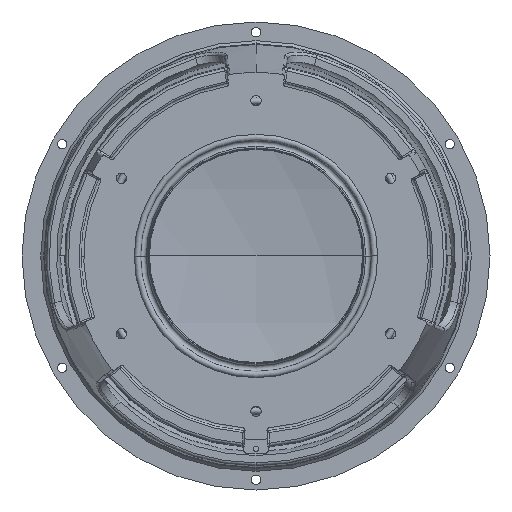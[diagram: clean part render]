
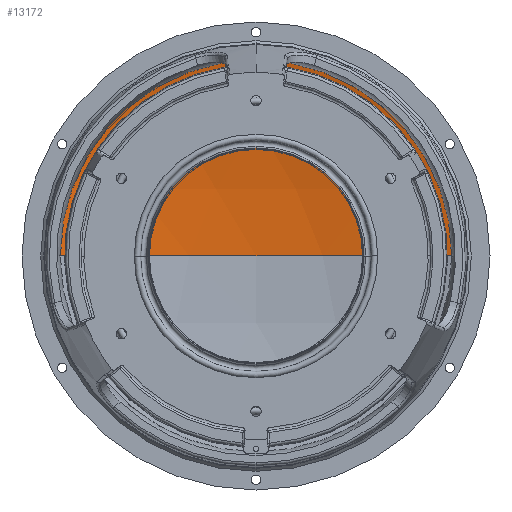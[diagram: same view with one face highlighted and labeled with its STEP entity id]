
A CAD part, front view. The second image highlights one B-rep face of the part: STEP entity #13172.
In plain terms, the highlighted spherical face has radius 405.833 mm.
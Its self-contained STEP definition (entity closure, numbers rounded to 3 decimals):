
#130 = CARTESIAN_POINT ( 'NONE',  ( 0., -410.833, 0. ) ) ;
#349 = CIRCLE ( 'NONE', #11791, 405.833 ) ;
#638 = CARTESIAN_POINT ( 'NONE',  ( 105.931, -19.069, 0. ) ) ;
#1327 = DIRECTION ( 'NONE',  ( -1., 0., 0. ) ) ;
#1455 = DIRECTION ( 'NONE',  ( 0., 1., 0. ) ) ;
#2753 = CARTESIAN_POINT ( 'NONE',  ( 0., -410.833, 0. ) ) ;
#3405 = SPHERICAL_SURFACE ( 'NONE', #11331, 405.833 ) ;
#3551 = AXIS2_PLACEMENT_3D ( 'NONE', #8144, #1455, #9258 ) ;
#3890 = DIRECTION ( 'NONE',  ( 1., 0., 0. ) ) ;
#4294 = CARTESIAN_POINT ( 'NONE',  ( 0., -5., 0. ) ) ;
#4316 = DIRECTION ( 'NONE',  ( 1., 0., 0. ) ) ;
#5486 = AXIS2_PLACEMENT_3D ( 'NONE', #2753, #10567, #3890 ) ;
#5605 = EDGE_LOOP ( 'NONE', ( #7294, #14322, #10748 ) ) ;
#6689 = VERTEX_POINT ( 'NONE', #12548 ) ;
#6732 = EDGE_CURVE ( 'NONE', #7192, #13736, #11302, .T. ) ;
#7192 = VERTEX_POINT ( 'NONE', #638 ) ;
#7294 = ORIENTED_EDGE ( 'NONE', *, *, #10114, .F. ) ;
#8017 = DIRECTION ( 'NONE',  ( 0., 0., -1. ) ) ;
#8144 = CARTESIAN_POINT ( 'NONE',  ( 0., -19.069, 0. ) ) ;
#9258 = DIRECTION ( 'NONE',  ( -1., 0., 0. ) ) ;
#10114 = EDGE_CURVE ( 'NONE', #6689, #7192, #13415, .T. ) ;
#10567 = DIRECTION ( 'NONE',  ( 0., 0., 1. ) ) ;
#10748 = ORIENTED_EDGE ( 'NONE', *, *, #6732, .F. ) ;
#10984 = CARTESIAN_POINT ( 'NONE',  ( 0., -410.833, 0. ) ) ;
#11302 = CIRCLE ( 'NONE', #5486, 405.833 ) ;
#11331 = AXIS2_PLACEMENT_3D ( 'NONE', #10984, #13223, #4316 ) ;
#11618 = FACE_OUTER_BOUND ( 'NONE', #5605, .T. ) ;
#11791 = AXIS2_PLACEMENT_3D ( 'NONE', #130, #8017, #1327 ) ;
#12548 = CARTESIAN_POINT ( 'NONE',  ( -105.931, -19.069, 0. ) ) ;
#13172 = ADVANCED_FACE ( 'NONE', ( #11618 ), #3405, .F. ) ;
#13223 = DIRECTION ( 'NONE',  ( 0., 0., -1. ) ) ;
#13303 = EDGE_CURVE ( 'NONE', #6689, #13736, #349, .T. ) ;
#13415 = CIRCLE ( 'NONE', #3551, 105.931 ) ;
#13736 = VERTEX_POINT ( 'NONE', #4294 ) ;
#14322 = ORIENTED_EDGE ( 'NONE', *, *, #13303, .T. ) ;
